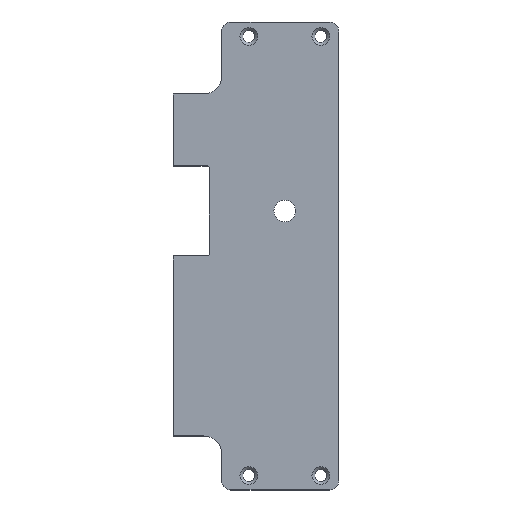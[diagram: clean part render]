
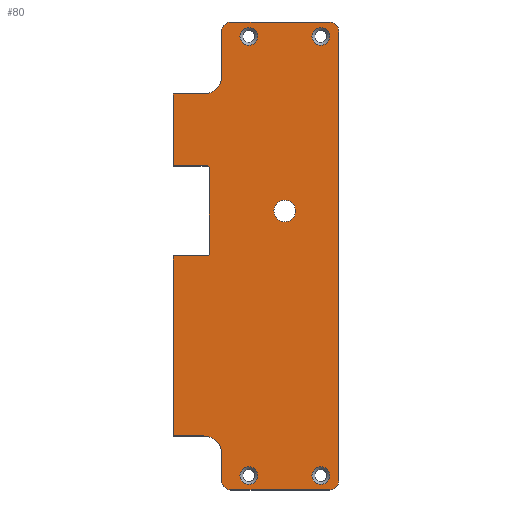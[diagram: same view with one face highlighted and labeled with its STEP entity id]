
A CAD part, top view. The second image highlights one B-rep face of the part: STEP entity #80.
In plain terms, the highlighted planar face has unit normal (0, 0, 1).
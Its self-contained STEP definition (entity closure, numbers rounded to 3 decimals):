
#80=ADVANCED_FACE('',(#584,#586,#588,#590,#592,#594),#596,.T.);
#584=FACE_BOUND('',#585,.T.);
#585=EDGE_LOOP('',(#1041,#1042,#1043,#1044,#1045,#1046,#1047,#1048,#1049,#1050,#1051,
#1052,#1053,#1054,#1055,#1056,#1057,#1058,#1059,#1060));
#586=FACE_BOUND('',#587,.T.);
#587=EDGE_LOOP('',(#1061));
#588=FACE_BOUND('',#589,.T.);
#589=EDGE_LOOP('',(#1062));
#590=FACE_BOUND('',#591,.T.);
#591=EDGE_LOOP('',(#1063));
#592=FACE_BOUND('',#593,.T.);
#593=EDGE_LOOP('',(#1064));
#594=FACE_BOUND('',#595,.T.);
#595=EDGE_LOOP('',(#1065));
#596=PLANE('',#597);
#597=AXIS2_PLACEMENT_3D('',#598,#599,#600);
#598=CARTESIAN_POINT('',(0.,0.,12.));
#599=DIRECTION('',(0.,0.,1.));
#600=DIRECTION('',(-1.,0.,0.));
#1041=ORIENTED_EDGE('',*,*,#1283,.F.);
#1042=ORIENTED_EDGE('',*,*,#1284,.T.);
#1043=ORIENTED_EDGE('',*,*,#1285,.T.);
#1044=ORIENTED_EDGE('',*,*,#1286,.T.);
#1045=ORIENTED_EDGE('',*,*,#1287,.T.);
#1046=ORIENTED_EDGE('',*,*,#1288,.T.);
#1047=ORIENTED_EDGE('',*,*,#1289,.F.);
#1048=ORIENTED_EDGE('',*,*,#1274,.T.);
#1049=ORIENTED_EDGE('',*,*,#1282,.F.);
#1050=ORIENTED_EDGE('',*,*,#1290,.T.);
#1051=ORIENTED_EDGE('',*,*,#1291,.F.);
#1052=ORIENTED_EDGE('',*,*,#1292,.T.);
#1053=ORIENTED_EDGE('',*,*,#1293,.F.);
#1054=ORIENTED_EDGE('',*,*,#1294,.T.);
#1055=ORIENTED_EDGE('',*,*,#1295,.T.);
#1056=ORIENTED_EDGE('',*,*,#1296,.T.);
#1057=ORIENTED_EDGE('',*,*,#1297,.T.);
#1058=ORIENTED_EDGE('',*,*,#1298,.T.);
#1059=ORIENTED_EDGE('',*,*,#1299,.F.);
#1060=ORIENTED_EDGE('',*,*,#1300,.T.);
#1061=ORIENTED_EDGE('',*,*,#1301,.T.);
#1062=ORIENTED_EDGE('',*,*,#1302,.T.);
#1063=ORIENTED_EDGE('',*,*,#1303,.T.);
#1064=ORIENTED_EDGE('',*,*,#1304,.T.);
#1065=ORIENTED_EDGE('',*,*,#1305,.T.);
#1274=EDGE_CURVE('',#1398,#1396,#1399,.T.);
#1282=EDGE_CURVE('',#1411,#1396,#1413,.F.);
#1283=EDGE_CURVE('',#1414,#1415,#1416,.F.);
#1284=EDGE_CURVE('',#1414,#1417,#1418,.F.);
#1285=EDGE_CURVE('',#1417,#1419,#1420,.T.);
#1286=EDGE_CURVE('',#1419,#1421,#1422,.F.);
#1287=EDGE_CURVE('',#1421,#1423,#1424,.T.);
#1288=EDGE_CURVE('',#1423,#1425,#1426,.F.);
#1289=EDGE_CURVE('',#1398,#1425,#1427,.F.);
#1290=EDGE_CURVE('',#1411,#1428,#1429,.T.);
#1291=EDGE_CURVE('',#1430,#1428,#1431,.F.);
#1292=EDGE_CURVE('',#1430,#1432,#1433,.T.);
#1293=EDGE_CURVE('',#1434,#1432,#1435,.F.);
#1294=EDGE_CURVE('',#1434,#1436,#1437,.F.);
#1295=EDGE_CURVE('',#1436,#1438,#1439,.T.);
#1296=EDGE_CURVE('',#1438,#1440,#1441,.F.);
#1297=EDGE_CURVE('',#1440,#1442,#1443,.T.);
#1298=EDGE_CURVE('',#1442,#1444,#1445,.F.);
#1299=EDGE_CURVE('',#1446,#1444,#1447,.F.);
#1300=EDGE_CURVE('',#1446,#1415,#1448,.T.);
#1301=EDGE_CURVE('',#1449,#1449,#1450,.T.);
#1302=EDGE_CURVE('',#1451,#1451,#1452,.T.);
#1303=EDGE_CURVE('',#1453,#1453,#1454,.F.);
#1304=EDGE_CURVE('',#1455,#1455,#1456,.T.);
#1305=EDGE_CURVE('',#1457,#1457,#1458,.T.);
#1396=VERTEX_POINT('',#1610);
#1398=VERTEX_POINT('',#1614);
#1399=LINE('',#1615,#1616);
#1411=VERTEX_POINT('',#1645);
#1413=CIRCLE('',#1649,5.);
#1414=VERTEX_POINT('',#1653);
#1415=VERTEX_POINT('',#1654);
#1416=CIRCLE('',#1655,1.);
#1417=VERTEX_POINT('',#1659);
#1418=LINE('',#1660,#1661);
#1419=VERTEX_POINT('',#1663);
#1420=LINE('',#1664,#1665);
#1421=VERTEX_POINT('',#1667);
#1422=LINE('',#1668,#1669);
#1423=VERTEX_POINT('',#1671);
#1424=CIRCLE('',#1672,10.);
#1425=VERTEX_POINT('',#1676);
#1426=LINE('',#1677,#1678);
#1427=CIRCLE('',#1680,5.);
#1428=VERTEX_POINT('',#1684);
#1429=LINE('',#1685,#1686);
#1430=VERTEX_POINT('',#1688);
#1431=CIRCLE('',#1689,5.);
#1432=VERTEX_POINT('',#1693);
#1433=LINE('',#1694,#1695);
#1434=VERTEX_POINT('',#1697);
#1435=CIRCLE('',#1698,5.);
#1436=VERTEX_POINT('',#1702);
#1437=LINE('',#1703,#1704);
#1438=VERTEX_POINT('',#1706);
#1439=CIRCLE('',#1707,10.);
#1440=VERTEX_POINT('',#1711);
#1441=LINE('',#1712,#1713);
#1442=VERTEX_POINT('',#1715);
#1443=LINE('',#1716,#1717);
#1444=VERTEX_POINT('',#1719);
#1445=LINE('',#1720,#1721);
#1446=VERTEX_POINT('',#1723);
#1447=CIRCLE('',#1724,1.);
#1448=LINE('',#1728,#1729);
#1449=VERTEX_POINT('',#1731);
#1450=CIRCLE('',#1732,4.923);
#1451=VERTEX_POINT('',#1736);
#1452=CIRCLE('',#1737,4.923);
#1453=VERTEX_POINT('',#1741);
#1454=CIRCLE('',#1742,6.);
#1455=VERTEX_POINT('',#1746);
#1456=CIRCLE('',#1747,4.923);
#1457=VERTEX_POINT('',#1751);
#1458=CIRCLE('',#1752,4.923);
#1610=CARTESIAN_POINT('',(12.,-235.,12.));
#1614=CARTESIAN_POINT('',(-43.,-235.,12.));
#1615=CARTESIAN_POINT('',(-43.,-235.,12.));
#1616=VECTOR('',#1617,1.);
#1617=DIRECTION('',(1.,0.,0.));
#1645=CARTESIAN_POINT('',(17.,-230.,12.));
#1649=AXIS2_PLACEMENT_3D('',#1650,#1651,#1652);
#1650=CARTESIAN_POINT('',(12.,-230.,12.));
#1651=DIRECTION('',(0.,0.,1.));
#1652=DIRECTION('',(0.,-1.,0.));
#1653=CARTESIAN_POINT('',(-56.,-105.,12.));
#1654=CARTESIAN_POINT('',(-55.,-104.,12.));
#1655=AXIS2_PLACEMENT_3D('',#1656,#1657,#1658);
#1656=CARTESIAN_POINT('',(-56.,-104.,12.));
#1657=DIRECTION('',(0.,0.,-1.));
#1658=DIRECTION('',(1.,0.,0.));
#1659=CARTESIAN_POINT('',(-75.,-105.,12.));
#1660=CARTESIAN_POINT('',(-75.,-105.,12.));
#1661=VECTOR('',#1662,1.);
#1662=DIRECTION('',(1.,0.,0.));
#1663=CARTESIAN_POINT('',(-75.,-205.,12.));
#1664=CARTESIAN_POINT('',(-75.,-105.,12.));
#1665=VECTOR('',#1666,1.);
#1666=DIRECTION('',(0.,-1.,0.));
#1667=CARTESIAN_POINT('',(-58.,-205.,12.));
#1668=CARTESIAN_POINT('',(-58.,-205.,12.));
#1669=VECTOR('',#1670,1.);
#1670=DIRECTION('',(-1.,0.,0.));
#1671=CARTESIAN_POINT('',(-48.,-215.,12.));
#1672=AXIS2_PLACEMENT_3D('',#1673,#1674,#1675);
#1673=CARTESIAN_POINT('',(-58.,-215.,12.));
#1674=DIRECTION('',(0.,0.,-1.));
#1675=DIRECTION('',(0.,1.,0.));
#1676=CARTESIAN_POINT('',(-48.,-230.,12.));
#1677=CARTESIAN_POINT('',(-48.,-230.,12.));
#1678=VECTOR('',#1679,1.);
#1679=DIRECTION('',(0.,1.,0.));
#1680=AXIS2_PLACEMENT_3D('',#1681,#1682,#1683);
#1681=CARTESIAN_POINT('',(-43.,-230.,12.));
#1682=DIRECTION('',(0.,0.,1.));
#1683=DIRECTION('',(-1.,0.,0.));
#1684=CARTESIAN_POINT('',(17.,20.,12.));
#1685=CARTESIAN_POINT('',(17.,-230.,12.));
#1686=VECTOR('',#1687,1.);
#1687=DIRECTION('',(0.,1.,0.));
#1688=CARTESIAN_POINT('',(12.,25.,12.));
#1689=AXIS2_PLACEMENT_3D('',#1690,#1691,#1692);
#1690=CARTESIAN_POINT('',(12.,20.,12.));
#1691=DIRECTION('',(0.,0.,1.));
#1692=DIRECTION('',(1.,0.,0.));
#1693=CARTESIAN_POINT('',(-43.,25.,12.));
#1694=CARTESIAN_POINT('',(12.,25.,12.));
#1695=VECTOR('',#1696,1.);
#1696=DIRECTION('',(-1.,0.,0.));
#1697=CARTESIAN_POINT('',(-48.,20.,12.));
#1698=AXIS2_PLACEMENT_3D('',#1699,#1700,#1701);
#1699=CARTESIAN_POINT('',(-43.,20.,12.));
#1700=DIRECTION('',(0.,0.,1.));
#1701=DIRECTION('',(0.,1.,0.));
#1702=CARTESIAN_POINT('',(-48.,-5.,12.));
#1703=CARTESIAN_POINT('',(-48.,-5.,12.));
#1704=VECTOR('',#1705,1.);
#1705=DIRECTION('',(0.,1.,0.));
#1706=CARTESIAN_POINT('',(-58.,-15.,12.));
#1707=AXIS2_PLACEMENT_3D('',#1708,#1709,#1710);
#1708=CARTESIAN_POINT('',(-58.,-5.,12.));
#1709=DIRECTION('',(0.,0.,-1.));
#1710=DIRECTION('',(1.,0.,0.));
#1711=CARTESIAN_POINT('',(-75.,-15.,12.));
#1712=CARTESIAN_POINT('',(-75.,-15.,12.));
#1713=VECTOR('',#1714,1.);
#1714=DIRECTION('',(1.,0.,0.));
#1715=CARTESIAN_POINT('',(-75.,-55.,12.));
#1716=CARTESIAN_POINT('',(-75.,-15.,12.));
#1717=VECTOR('',#1718,1.);
#1718=DIRECTION('',(0.,-1.,0.));
#1719=CARTESIAN_POINT('',(-56.,-55.,12.));
#1720=CARTESIAN_POINT('',(-56.,-55.,12.));
#1721=VECTOR('',#1722,1.);
#1722=DIRECTION('',(-1.,0.,0.));
#1723=CARTESIAN_POINT('',(-55.,-56.,12.));
#1724=AXIS2_PLACEMENT_3D('',#1725,#1726,#1727);
#1725=CARTESIAN_POINT('',(-56.,-56.,12.));
#1726=DIRECTION('',(0.,0.,-1.));
#1727=DIRECTION('',(0.,1.,0.));
#1728=CARTESIAN_POINT('',(-55.,-56.,12.));
#1729=VECTOR('',#1730,1.);
#1730=DIRECTION('',(0.,-1.,0.));
#1731=CARTESIAN_POINT('',(7.,-222.077,12.));
#1732=AXIS2_PLACEMENT_3D('',#1733,#1734,#1735);
#1733=CARTESIAN_POINT('',(7.,-227.,12.));
#1734=DIRECTION('',(0.,0.,-1.));
#1735=DIRECTION('',(0.,1.,0.));
#1736=CARTESIAN_POINT('',(-33.,12.077,12.));
#1737=AXIS2_PLACEMENT_3D('',#1738,#1739,#1740);
#1738=CARTESIAN_POINT('',(-33.,17.,12.));
#1739=DIRECTION('',(0.,0.,-1.));
#1740=DIRECTION('',(0.,-1.,0.));
#1741=CARTESIAN_POINT('',(-19.,-80.,12.));
#1742=AXIS2_PLACEMENT_3D('',#1743,#1744,#1745);
#1743=CARTESIAN_POINT('',(-13.,-80.,12.));
#1744=DIRECTION('',(0.,0.,1.));
#1745=DIRECTION('',(-1.,0.,0.));
#1746=CARTESIAN_POINT('',(-33.,-231.923,12.));
#1747=AXIS2_PLACEMENT_3D('',#1748,#1749,#1750);
#1748=CARTESIAN_POINT('',(-33.,-227.,12.));
#1749=DIRECTION('',(0.,0.,-1.));
#1750=DIRECTION('',(0.,-1.,0.));
#1751=CARTESIAN_POINT('',(7.,12.077,12.));
#1752=AXIS2_PLACEMENT_3D('',#1753,#1754,#1755);
#1753=CARTESIAN_POINT('',(7.,17.,12.));
#1754=DIRECTION('',(0.,0.,-1.));
#1755=DIRECTION('',(0.,-1.,0.));
